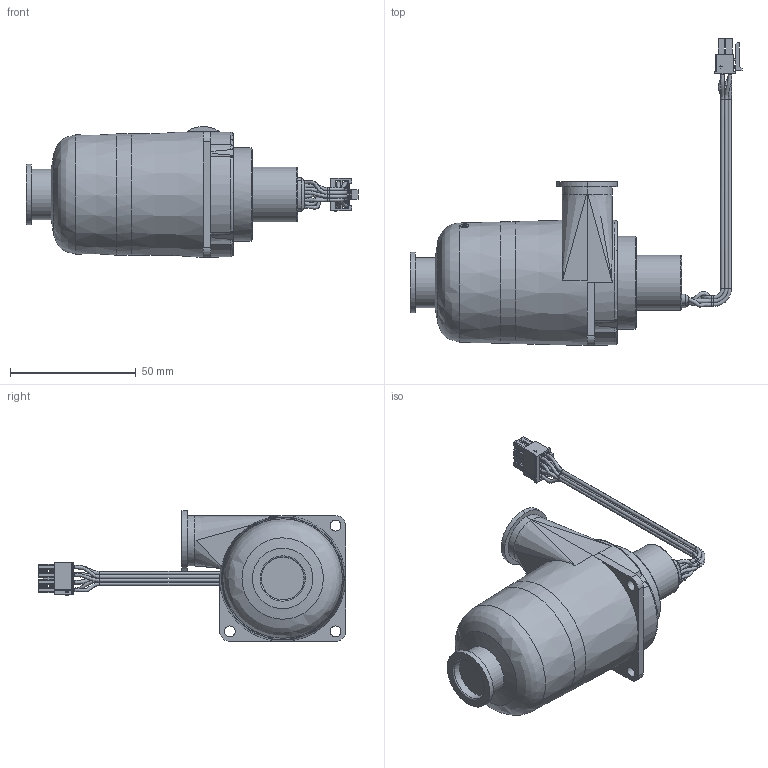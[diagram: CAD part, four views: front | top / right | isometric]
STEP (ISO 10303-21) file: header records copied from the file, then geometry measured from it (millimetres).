
FILE_DESCRIPTION(/* description */ (''),/* implementation_level */ '2;1');
FILE_NAME(/* name */ 'U51D2-024KX-6.stp',/* time_stamp */ '2014-04-24T09:58:34+02:00',/* author */ (''),/* organization */ (''),/* preprocessor_version */ 'ST-DEVELOPER v11',/* originating_system */ 'SIEMENS PLM Software NX 7.5',/* authorisation */ '');
FILE_SCHEMA (('AUTOMOTIVE_DESIGN { 1 0 10303 214 1 1 1 1 }'));
Length unit declared in the file: millimetre
Products named in the file (1): U51D2-024KX-6
Bounding box: 131.91 x 122.05 x 51.99 mm (x, y, z)
Volume: 159757.8 mm3; surface area: 25808.2 mm2
Topology: 1 solids, 1 shells, 540 faces, 1478 edges, 969 vertices
Faces by surface type: plane 391, cylinder 70, bspline 34, cone 32, torus 11, revolution 2
Full cylindrical faces by diameter (mm): 0.557 x2, 1.4 x24, 4.3 x3, 17 x1, 20 x1, 21.8 x1, 24 x1, 37 x1
Entity records: 19961 total; most frequent: CARTESIAN_POINT 6883, ORIENTED_EDGE 2750, DIRECTION 2473, EDGE_CURVE 1375, LINE 995, VECTOR 995, VERTEX_POINT 935, AXIS2_PLACEMENT_3D 738
